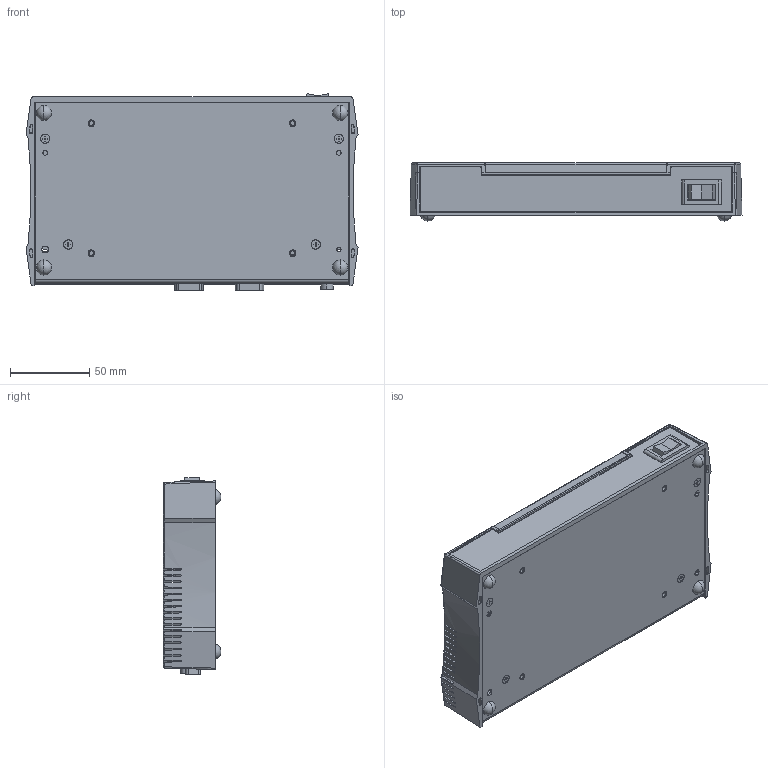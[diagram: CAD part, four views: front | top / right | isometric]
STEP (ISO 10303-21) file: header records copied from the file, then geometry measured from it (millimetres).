
FILE_DESCRIPTION((''),'2;1');
FILE_NAME('CU_ENET_2X_SERIAL','2007-07-16T',('chrisj'),(''),'PRO/ENGINEER BY PARAMETRIC TECHNOLOGY CORPORATION, 2006300','PRO/ENGINEER BY PARAMETRIC TECHNOLOGY CORPORATION, 2006300','');
FILE_SCHEMA(('AUTOMOTIVE_DESIGN_CC2 { 1 2 10303 214 -1 1 5 2 }'));
Products named in the file (1): CU_ENET_2X_SERIAL
Bounding box: 209.56 x 36.58 x 124.3 mm (x, y, z)
Volume: 161385.6 mm3; surface area: 158474.5 mm2
Topology: 7 solids, 7 shells, 1796 faces, 5151 edges, 3392 vertices
Faces by surface type: plane 1244, cylinder 371, cone 120, torus 43, sphere 12, bspline 6
Entity records: 65039 total; most frequent: CARTESIAN_POINT 17594, ORIENTED_EDGE 10286, DIRECTION 9296, EDGE_CURVE 5143, VECTOR 3880, LINE 3880, VERTEX_POINT 3392, AXIS2_PLACEMENT_3D 2708
